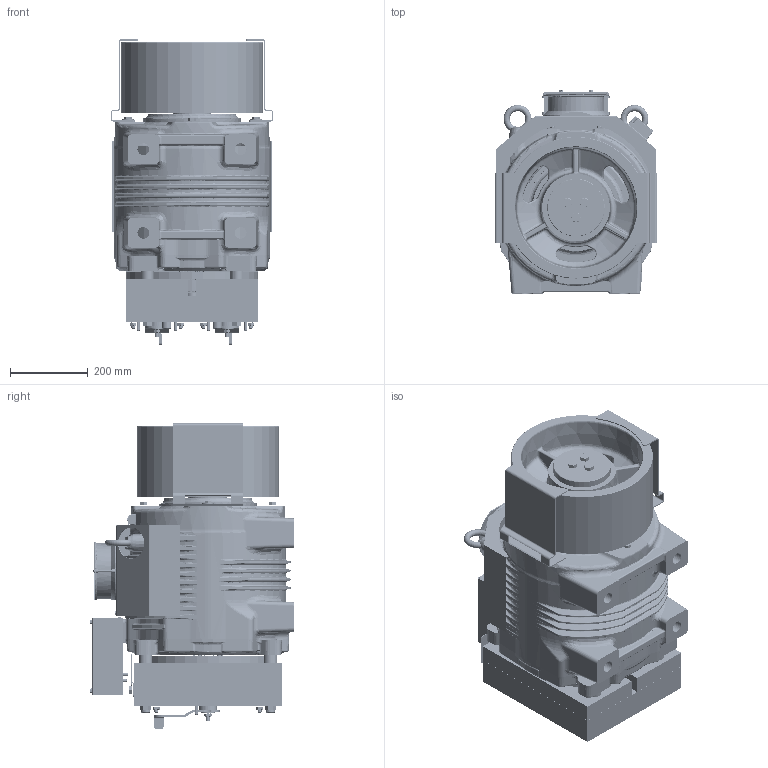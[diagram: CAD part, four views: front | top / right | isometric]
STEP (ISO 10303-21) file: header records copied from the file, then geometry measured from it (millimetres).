
FILE_DESCRIPTION((''),'2;1');
FILE_NAME('00363634_ASM','2020-06-16T',('furlanis'),('Sicor spa'),'CREO PARAMETRIC BY PTC INC, 2017170','CREO PARAMETRIC BY PTC INC, 2017170','');
FILE_SCHEMA(('CONFIG_CONTROL_DESIGN'));
Products named in the file (21): SG62_; _360_182; _360; 00261097; M4_FTT_L; M4_FTT_C; M3_FTT_C; 00261096_ASM; 00008906; 00024268; 00024286_ASM; 00024307; 00259719_M4X60; 00022368; 2080010002; VITI_TC_M4X25_VIT0066; VITI_TC_M3X16_VIT0064; TEM6X12_VIR0184; 00000263; 00268202_ASM; 00363634_ASM
Assembly tree (32 placements, depth 4):
  00363634_ASM
    SG62_
    _360_182
    _360  x2
    00268202_ASM
      00261096_ASM
        00261097
        M4_FTT_L  x2
        M4_FTT_C  x4
        M3_FTT_C  x2
      00024286_ASM
        00008906
        00024268
      00024307
      00259719_M4X60  x2
      00022368
      2080010002
      VITI_TC_M4X25_VIT0066  x2
      VITI_TC_M3X16_VIT0064  x2
      TEM6X12_VIR0184  x4
      00000263
Bounding box: 417 x 521.9 x 783.64 mm (x, y, z)
Volume: 9738290.7 mm3; surface area: 5132308.1 mm2
Topology: 28 solids, 207 shells, 5037 faces, 13949 edges, 8907 vertices
Faces by surface type: plane 1411, cylinder 1204, bspline 1163, torus 669, cone 556, sphere 34
Entity records: 254102 total; most frequent: CARTESIAN_POINT 145632, ORIENTED_EDGE 23822, DIRECTION 18941, EDGE_CURVE 13345, VERTEX_POINT 8564, AXIS2_PLACEMENT_3D 7509, B_SPLINE_CURVE_WITH_KNOTS 5607, EDGE_LOOP 4989
